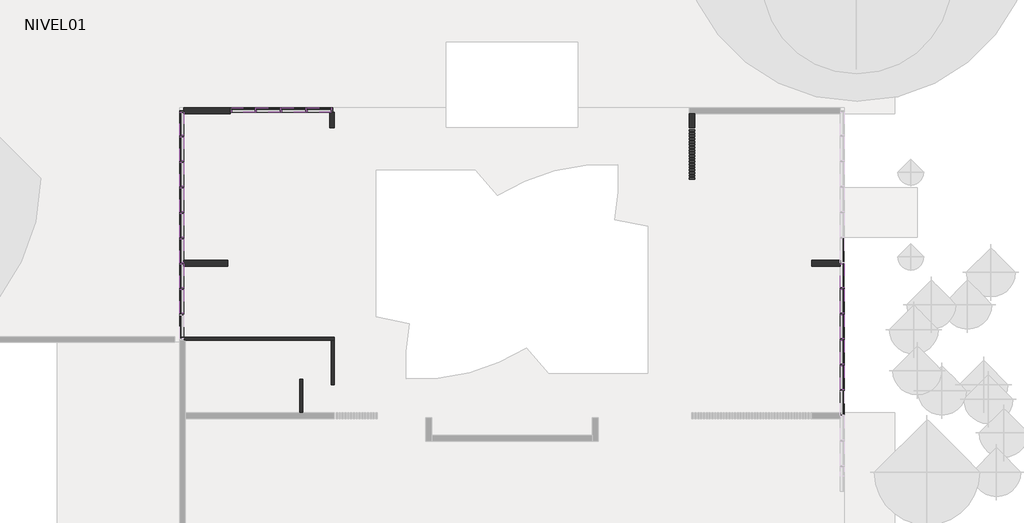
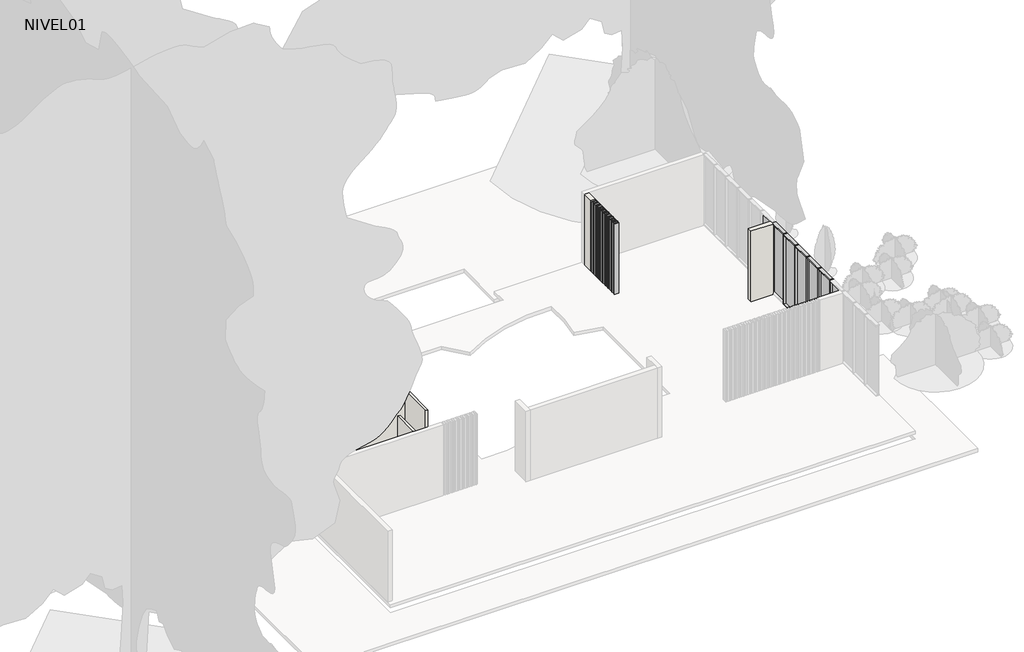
# One storey, part 3 of 4: 74 members, 19 plates, 8 walls.
"""IFC4 building model written with IfcOpenShell, lengths in millimetres."""

import ifcopenshell
import ifcopenshell.guid

model = None  # the IFC model being written
_history = None  # IfcOwnerHistory: only IFC2X3 demands one
_inside = {}  # id of a spatial element -> (the spatial element, [elements in it])
_under = {}  # id of a project, library or spatial element -> (it, [spatial elements below it])
_declared = {}  # id of a project -> (the project, [libraries it declares])
_typed = {}  # id of a type object -> (the type object, [elements of that type])
_made_of = {}  # id of a material, layer set ... -> (it, [elements and type objects made of it])


def new_model(schema):
    """Start an empty IFC model of exactly this schema.

    Asked for "IFC4X3", IfcOpenShell would pick the latest addendum, in which some entities
    have other attributes; the version numbers below select the first issue.
    IFC2X3 requires an IfcOwnerHistory on every rooted entity: one is made here for all.
    """
    global model, _history
    if schema == "IFC4X3":
        model = ifcopenshell.file(schema_version=(4, 3, 0, 0))
    else:
        model = ifcopenshell.file(schema=schema)
    _inside.clear()
    _under.clear()
    _declared.clear()
    _typed.clear()
    _made_of.clear()
    _history = None
    if model.schema == "IFC2X3":
        org = make("IfcOrganization", Name="unknown")
        user = make(
            "IfcPersonAndOrganization",
            ThePerson=make("IfcPerson", FamilyName="unknown"),
            TheOrganization=org,
        )
        app = make(
            "IfcApplication",
            ApplicationDeveloper=org,
            Version="unknown",
            ApplicationFullName="unknown",
            ApplicationIdentifier="unknown",
        )
        _history = make(
            "IfcOwnerHistory",
            OwningUser=user,
            OwningApplication=app,
            ChangeAction="ADDED",
            CreationDate=0,
        )
    return model


def make(cls, **values):
    """One entity of the class cls with the attributes given. An attribute that is None is left unset."""
    return model.create_entity(
        cls, **{name: value for name, value in values.items() if value is not None}
    )


def rooted(cls, **values):
    """An entity with a GlobalId (a new one), such as an element, a storey or a relation."""
    return make(cls, GlobalId=ifcopenshell.guid.new(), OwnerHistory=_history, **values)


def si_unit(unit_type, name, prefix=None):
    """IfcSIUnit, for example si_unit("LENGTHUNIT", "METRE", prefix="MILLI")."""
    return make("IfcSIUnit", UnitType=unit_type, Prefix=prefix, Name=name)


def assignment(units):
    """IfcUnitAssignment: the units of a project."""
    return None if units is None else make("IfcUnitAssignment", Units=units)


def point(xyz):
    """IfcCartesianPoint."""
    return None if xyz is None else make("IfcCartesianPoint", Coordinates=xyz)


def direction(xyz):
    """IfcDirection."""
    return None if xyz is None else make("IfcDirection", DirectionRatios=xyz)


def frame(location, z_axis=None, x_axis=None):
    """IfcAxis2Placement3D, a coordinate frame: its origin and axes. An axis left out is left unset."""
    return make(
        "IfcAxis2Placement3D",
        Location=point(location),
        Axis=direction(z_axis),
        RefDirection=direction(x_axis),
    )


def origin():
    """The frame at (0, 0, 0) with its axes left unset."""
    return frame((0.0, 0.0, 0.0))


def origin_with_axes():
    """The frame at (0, 0, 0) with the z axis (0, 0, 1) and the x axis (1, 0, 0) written out."""
    return frame((0.0, 0.0, 0.0), z_axis=(0.0, 0.0, 1.0), x_axis=(1.0, 0.0, 0.0))


def place(relative_to, where):
    """IfcLocalPlacement: puts the frame where relative to a parent placement (None: the world)."""
    return make(
        "IfcLocalPlacement", PlacementRelTo=relative_to, RelativePlacement=where
    )


def context(
    kind, dimensions, precision=None, world=None, true_north=None, identifier=None
):
    """IfcGeometricRepresentationContext, for example the 3D "Model" context."""
    return make(
        "IfcGeometricRepresentationContext",
        ContextIdentifier=identifier,
        ContextType=kind,
        CoordinateSpaceDimension=dimensions,
        Precision=precision,
        WorldCoordinateSystem=world,
        TrueNorth=true_north,
    )


def project(units=None, contexts=None):
    """IfcProject with its units and contexts."""
    return rooted(
        "IfcProject",
        Name="project",
        RepresentationContexts=contexts,
        UnitsInContext=assignment(units),
    )


def spatial(cls, under=None, at=None, **own):
    """A site, building, storey or space (cls), placed at a placement, below another one or the project."""
    s = rooted(cls, ObjectPlacement=at, **own)
    if under is not None:
        _under.setdefault(under.id(), (under, []))[1].append(s)
    return s


def polyline(points):
    """IfcPolyline through the points."""
    return make("IfcPolyline", Points=[point(p) for p in points])


def outline(outer, holes=None, kind="AREA"):
    """IfcArbitraryClosedProfileDef: a profile drawn as a closed curve; with holes, ...WithVoids."""
    if holes is None:
        return make("IfcArbitraryClosedProfileDef", ProfileType=kind, OuterCurve=outer)
    return make(
        "IfcArbitraryProfileDefWithVoids",
        ProfileType=kind,
        OuterCurve=outer,
        InnerCurves=holes,
    )


def extrude(swept, where, along, depth):
    """IfcExtrudedAreaSolid: the profile swept, set in the frame where, extruded along a direction by depth."""
    return make(
        "IfcExtrudedAreaSolid",
        SweptArea=swept,
        Position=where,
        ExtrudedDirection=direction(along),
        Depth=depth,
    )


def faces_of(points, faces, orient=None, outer=None):
    """IfcFace entities. A face is a list of loops; a loop is a list of indices into points, from 0.

    orient and outer hold one flag for each loop. By default every Orientation is true, the
    first loop of a face is its IfcFaceOuterBound and the others are IfcFaceBound.
    """
    made = []
    for i, loops in enumerate(faces):
        bounds = []
        for j, loop in enumerate(loops):
            is_outer = j == 0 if outer is None else outer[i][j]
            bounds.append(
                make(
                    "IfcFaceOuterBound" if is_outer else "IfcFaceBound",
                    Bound=make("IfcPolyLoop", Polygon=[points[k] for k in loop]),
                    Orientation=True if orient is None else orient[i][j],
                )
            )
        made.append(make("IfcFace", Bounds=bounds))
    return made


def faceted_brep(points, faces, orient=None, outer=None, voids=None):
    """IfcFacetedBrep: a solid bounded by flat faces; with voids (closed shells), ...WithVoids."""
    shared = [point(p) for p in points]
    hull = make("IfcClosedShell", CfsFaces=faces_of(shared, faces, orient, outer))
    if voids is None:
        return make("IfcFacetedBrep", Outer=hull)
    return make(
        "IfcFacetedBrepWithVoids",
        Outer=hull,
        Voids=[
            make(cls, CfsFaces=faces_of(shared, fs, o, b)) for cls, fs, o, b in voids
        ],
    )


def shape(context_of_items, identifier, shape_type, items):
    """IfcShapeRepresentation: the items that make up one representation, for example the "Body"."""
    return make(
        "IfcShapeRepresentation",
        ContextOfItems=context_of_items,
        RepresentationIdentifier=identifier,
        RepresentationType=shape_type,
        Items=items,
    )


def source(mapping_origin, context_of_items, identifier, shape_type, items):
    """IfcRepresentationMap: a shape defined once, which mapped items show again and again."""
    return make(
        "IfcRepresentationMap",
        MappingOrigin=mapping_origin,
        MappedRepresentation=shape(context_of_items, identifier, shape_type, items),
    )


def transform(
    local_origin,
    x_axis=None,
    y_axis=None,
    z_axis=None,
    scale=None,
    scale2=None,
    scale3=None,
    uniform=True,
):
    """IfcCartesianTransformationOperator3D, or its non-uniform kind. x_axis, y_axis, z_axis: its Axis1, 2, 3."""
    if uniform:
        return make(
            "IfcCartesianTransformationOperator3D",
            Axis1=direction(x_axis),
            Axis2=direction(y_axis),
            LocalOrigin=point(local_origin),
            Scale=scale,
            Axis3=direction(z_axis),
        )
    return make(
        "IfcCartesianTransformationOperator3DnonUniform",
        Axis1=direction(x_axis),
        Axis2=direction(y_axis),
        LocalOrigin=point(local_origin),
        Scale=scale,
        Axis3=direction(z_axis),
        Scale2=scale2,
        Scale3=scale3,
    )


def mapped(mapping_source, mapping_target):
    """IfcMappedItem: shows the shape of a source again, moved by a transform."""
    return make(
        "IfcMappedItem", MappingSource=mapping_source, MappingTarget=mapping_target
    )


def made_of(thing, what):
    """Note that an element or type object is made of a material, layer set ...; save() writes the relation."""
    if what is not None:
        _made_of.setdefault(what.id(), (what, []))[1].append(thing)
    return thing


def element(
    cls,
    number,
    at=None,
    inside=None,
    cuts=None,
    type_object=None,
    material=None,
    context=None,
    identifier="Body",
    shape_type=None,
    held_by="IfcProductDefinitionShape",
    body=None,
    shapes=None,
    **own,
):
    """One element of the class cls, such as IfcWall. Its Tag is "e" and its number.

    at: its placement. inside: the storey or other place that contains it. cuts: it is an
    opening in that element (IfcRelVoidsElement). A single representation is given by context,
    identifier, shape_type and body (its items); several are given by shapes. held_by: the class
    of the entity that holds the representations. save() writes the other relations.
    """
    e = rooted(cls, Tag="e%d" % number, ObjectPlacement=at, **own)
    if body is not None:
        shapes = [shape(context, identifier, shape_type, body)]
    if shapes is not None:
        e.Representation = make(held_by, Representations=shapes)
    if inside is not None:
        _inside.setdefault(inside.id(), (inside, []))[1].append(e)
    if cuts is not None:
        rooted(
            "IfcRelVoidsElement", RelatingBuildingElement=cuts, RelatedOpeningElement=e
        )
    if type_object is not None:
        _typed.setdefault(type_object.id(), (type_object, []))[1].append(e)
    return made_of(e, material)


def aggregate(whole, parts):
    """IfcRelAggregates: a whole, such as a stair, and the parts it consists of."""
    return rooted("IfcRelAggregates", RelatingObject=whole, RelatedObjects=parts)


def save(model, path):
    """Write the relations noted so far, then the file.

    IfcRelAggregates (storeys below a building ...), IfcRelContainedInSpatialStructure (elements
    in a storey), IfcRelDefinesByType, IfcRelAssociatesMaterial and IfcRelDeclares: one each for
    every whole, place, type object, material and project.
    """
    for whole, parts in _under.values():
        aggregate(whole, parts)
    for where, things in _inside.values():
        rooted(
            "IfcRelContainedInSpatialStructure",
            RelatedElements=things,
            RelatingStructure=where,
        )
    for kind, things in _typed.values():
        rooted("IfcRelDefinesByType", RelatedObjects=things, RelatingType=kind)
    for what, things in _made_of.values():
        rooted("IfcRelAssociatesMaterial", RelatedObjects=things, RelatingMaterial=what)
    for by, libraries in _declared.values():
        rooted("IfcRelDeclares", RelatingContext=by, RelatedDefinitions=libraries)
    model.write(path)


def rectangular_mullion_50_x_150mm_86a57cfb(model_context):
    return source(origin(), model_context, "Body", "SweptSolid", [
        extrude(outline(polyline([(25.0, 75.0), (25.0, -75.0), (-25.0, -75.0), (-25.0, 75.0), (25.0, 75.0)])), frame((0.0, 0.0, -3350.0), z_axis=(0.0, 0.0, 1.0), x_axis=(1.0, 0.0, 0.0)), (0.0, 0.0, 1.0), 3350.0),
    ])


def rectangular_mullion_50_x_150mm_24ac0887(model_context):
    return source(origin(), model_context, "Body", "SweptSolid", [
        extrude(outline(polyline([(0.0, 75.0), (0.0, -75.0), (-50.0, -75.0), (-50.0, 75.0), (0.0, 75.0)])), frame((0.0, 0.0, -3350.0), z_axis=(0.0, 0.0, 1.0), x_axis=(1.0, 0.0, 0.0)), (0.0, 0.0, 1.0), 3350.0),
    ])


def rectangular_mullion_50_x_150mm_8dc60d6a(model_context):
    return source(origin(), model_context, "Body", "SweptSolid", [
        extrude(outline(polyline([(0.0, 75.0), (0.0, -75.0), (-50.0, -75.0), (-50.0, 75.0), (0.0, 75.0)])), frame((0.0, 0.0, -825.0000003), z_axis=(0.0, 0.0, 1.0), x_axis=(1.0, 0.0, 0.0)), (0.0, 0.0, 1.0), 825.0000003),
    ])


def rectangular_mullion_50_x_150mm_324a6438(model_context):
    return source(origin(), model_context, "Body", "SweptSolid", [
        extrude(outline(polyline([(0.0, 75.0), (0.0, -75.0), (-50.0, -75.0), (-50.0, 75.0), (0.0, 75.0)])), frame((0.0, 0.0, -850.0), z_axis=(0.0, 0.0, 1.0), x_axis=(1.0, 0.0, 0.0)), (0.0, 0.0, 1.0), 850.0),
    ])


def rectangular_mullion_madera_50_x_200mm_c4610814(model_context):
    return source(origin(), model_context, "Body", "SweptSolid", [
        extrude(outline(polyline([(25.0, 100.0), (25.0, -100.0), (-25.0, -100.0), (-25.0, 100.0), (25.0, 100.0)])), frame((0.0, 0.0, -3350.0), z_axis=(0.0, 0.0, 1.0), x_axis=(1.0, 0.0, 0.0)), (0.0, 0.0, 1.0), 3350.0),
    ])


def system_panel_glazed_e7fe89f5(model_context):
    return source(origin(), model_context, "Body", "SweptSolid", [
        extrude(outline(polyline([(412.5000002, 24.5), (-412.5000002, 24.5), (-412.5000002, 49.5), (412.5000002, 49.5), (412.5000002, 24.5)])), origin_with_axes(), (0.0, 0.0, 1.0), 3250.0),
    ])


def system_panel_glazed_7f3dea71(model_context):
    return source(origin(), model_context, "Body", "SweptSolid", [
        extrude(outline(polyline([(425.0, 24.5), (-425.0, 24.5), (-425.0, 49.5), (425.0, 49.5), (425.0, 24.5)])), origin_with_axes(), (0.0, 0.0, 1.0), 3250.0),
    ])


def system_panel_glazed_17ea2be8(model_context):
    return source(origin(), model_context, "Body", "SweptSolid", [
        extrude(outline(polyline([(412.5000002, -49.5), (-412.5000002, -49.5), (-412.5000002, -24.5), (412.5000002, -24.5), (412.5000002, -49.5)])), origin_with_axes(), (0.0, 0.0, 1.0), 3250.0),
    ])


def system_panel_glazed_1ee91bb5(model_context):
    return source(origin(), model_context, "Body", "SweptSolid", [
        extrude(outline(polyline([(425.0, -49.5), (-425.0, -49.5), (-425.0, -24.5), (425.0, -24.5), (425.0, -49.5)])), origin_with_axes(), (0.0, 0.0, 1.0), 3250.0),
    ])


model = new_model("IFC4")

# Units and contexts
model_context = context("Model", 3, world=origin())
ifc_project = project(units=[si_unit("LENGTHUNIT", "METRE", prefix="MILLI")], contexts=[model_context])

# Site, building, storey
site = spatial("IfcSite", under=ifc_project)
building = spatial("IfcBuilding", under=site)
storey = spatial("IfcBuildingStorey", under=building, Name="NIVEL01", Elevation=-1000.0)

# Members
placement = place(None, origin())
rectangular_mullion_50_x_150mm_shape = rectangular_mullion_50_x_150mm_86a57cfb(model_context)
element("IfcMember", 1, ObjectType="Rectangular Mullion : 50 x 150mm", at=placement, inside=storey, context=model_context, shape_type="MappedRepresentation", body=[
    mapped(rectangular_mullion_50_x_150mm_shape, transform((4516.4065252, 4233.9139237, -1020.0), x_axis=(0.0, -1.0, 0.0), y_axis=(-1.0, 0.0, 0.0), z_axis=(0.0, 0.0, -1.0))),
])
element("IfcMember", 2, ObjectType="Rectangular Mullion : 50 x 150mm", at=placement, inside=storey, context=model_context, shape_type="MappedRepresentation", body=[
    mapped(rectangular_mullion_50_x_150mm_shape, transform((4516.4065252, 3333.9139237, -1020.0), x_axis=(0.0, -1.0, 0.0), y_axis=(-1.0, 0.0, 0.0), z_axis=(0.0, 0.0, -1.0))),
])
element("IfcMember", 3, ObjectType="Rectangular Mullion : 50 x 150mm", at=placement, inside=storey, context=model_context, shape_type="MappedRepresentation", body=[
    mapped(rectangular_mullion_50_x_150mm_shape, transform((4516.4065252, 2433.9139237, -1020.0), x_axis=(0.0, -1.0, 0.0), y_axis=(-1.0, 0.0, 0.0), z_axis=(0.0, 0.0, -1.0))),
])
element("IfcMember", 4, ObjectType="Rectangular Mullion : 50 x 150mm", at=placement, inside=storey, context=model_context, shape_type="MappedRepresentation", body=[
    mapped(rectangular_mullion_50_x_150mm_shape, transform((4516.4065252, 1533.9139237, -1020.0), x_axis=(0.0, -1.0, 0.0), y_axis=(-1.0, 0.0, 0.0), z_axis=(0.0, 0.0, -1.0))),
])
element("IfcMember", 5, ObjectType="Rectangular Mullion : 50 x 150mm", at=placement, inside=storey, context=model_context, shape_type="MappedRepresentation", body=[
    mapped(rectangular_mullion_50_x_150mm_shape, transform((4516.4065252, 633.9139237, -1020.0), x_axis=(0.0, -1.0, 0.0), y_axis=(-1.0, 0.0, 0.0), z_axis=(0.0, 0.0, -1.0))),
])
element("IfcMember", 6, ObjectType="Rectangular Mullion : 50 x 150mm", at=placement, inside=storey, context=model_context, shape_type="MappedRepresentation", body=[
    mapped(rectangular_mullion_50_x_150mm_shape, transform((-16258.5934742, 10558.9139241, -1020.0), x_axis=(1.0, 0.0, 0.0), y_axis=(0.0, -1.0, 0.0), z_axis=(0.0, 0.0, -1.0))),
])
element("IfcMember", 7, ObjectType="Rectangular Mullion : 50 x 150mm", at=placement, inside=storey, context=model_context, shape_type="MappedRepresentation", body=[
    mapped(rectangular_mullion_50_x_150mm_shape, transform((-15358.5934742, 10558.9139241, -1020.0), x_axis=(1.0, 0.0, 0.0), y_axis=(0.0, -1.0, 0.0), z_axis=(0.0, 0.0, -1.0))),
])
element("IfcMember", 8, ObjectType="Rectangular Mullion : 50 x 150mm", at=placement, inside=storey, context=model_context, shape_type="MappedRepresentation", body=[
    mapped(rectangular_mullion_50_x_150mm_shape, transform((-14458.5934742, 10558.9139241, -1020.0), x_axis=(1.0, 0.0, 0.0), y_axis=(0.0, -1.0, 0.0), z_axis=(0.0, 0.0, -1.0))),
])
element("IfcMember", 9, ObjectType="Rectangular Mullion : 50 x 150mm", at=placement, inside=storey, context=model_context, shape_type="MappedRepresentation", body=[
    mapped(rectangular_mullion_50_x_150mm_shape, transform((-13558.5934742, 10558.9139241, -1020.0), x_axis=(1.0, 0.0, 0.0), y_axis=(0.0, -1.0, 0.0), z_axis=(0.0, 0.0, -1.0))),
])
rectangular_mullion_50_x_150mm_2_shape = rectangular_mullion_50_x_150mm_24ac0887(model_context)
element("IfcMember", 10, ObjectType="Rectangular Mullion : 50 x 150mm", at=placement, inside=storey, context=model_context, shape_type="MappedRepresentation", body=[
    mapped(rectangular_mullion_50_x_150mm_2_shape, transform((-17158.5934745, 10558.9139241, 2330.0), x_axis=(-1.0, 0.0, 0.0), y_axis=(0.0, -1.0, 0.0), z_axis=(0.0, 0.0, 1.0))),
])
element("IfcMember", 11, ObjectType="Rectangular Mullion : 50 x 150mm", at=placement, inside=storey, context=model_context, shape_type="MappedRepresentation", body=[
    mapped(rectangular_mullion_50_x_150mm_2_shape, transform((-13533.5934745, 10558.9139241, -1020.0), x_axis=(1.0, 0.0, 0.0), y_axis=(0.0, -1.0, 0.0), z_axis=(0.0, 0.0, -1.0))),
])
rectangular_mullion_50_x_150mm_3_shape = rectangular_mullion_50_x_150mm_8dc60d6a(model_context)
element("IfcMember", 12, ObjectType="Rectangular Mullion : 50 x 150mm", at=placement, inside=storey, context=model_context, shape_type="MappedRepresentation", body=[
    mapped(rectangular_mullion_50_x_150mm_3_shape, transform((-18883.5934748, 9658.9139237, 2330.0), x_axis=(0.0, 0.0, 1.0), y_axis=(-1.0, 0.0, 0.0), z_axis=(0.0, -1.0, 0.0))),
])
element("IfcMember", 13, ObjectType="Rectangular Mullion : 50 x 150mm", at=placement, inside=storey, context=model_context, shape_type="MappedRepresentation", body=[
    mapped(rectangular_mullion_50_x_150mm_3_shape, transform((-18883.5934748, 10483.9139241, -1020.0), x_axis=(0.0, 0.0, -1.0), y_axis=(-1.0, 0.0, 0.0), z_axis=(0.0, 1.0, 0.0))),
])
element("IfcMember", 14, ObjectType="Rectangular Mullion : 50 x 150mm", at=placement, inside=storey, context=model_context, shape_type="MappedRepresentation", body=[
    mapped(rectangular_mullion_50_x_150mm_shape, transform((-18883.5934748, 9633.9139237, -1020.0), x_axis=(0.0, -1.0, 0.0), y_axis=(-1.0, 0.0, 0.0), z_axis=(0.0, 0.0, -1.0))),
])
element("IfcMember", 15, ObjectType="Rectangular Mullion : 50 x 150mm", at=placement, inside=storey, context=model_context, shape_type="MappedRepresentation", body=[
    mapped(rectangular_mullion_50_x_150mm_shape, transform((-18883.5934748, 8733.9139237, -1020.0), x_axis=(0.0, -1.0, 0.0), y_axis=(-1.0, 0.0, 0.0), z_axis=(0.0, 0.0, -1.0))),
])
element("IfcMember", 16, ObjectType="Rectangular Mullion : 50 x 150mm", at=placement, inside=storey, context=model_context, shape_type="MappedRepresentation", body=[
    mapped(rectangular_mullion_50_x_150mm_shape, transform((-18883.5934748, 7833.9139237, -1020.0), x_axis=(0.0, -1.0, 0.0), y_axis=(-1.0, 0.0, 0.0), z_axis=(0.0, 0.0, -1.0))),
])
element("IfcMember", 17, ObjectType="Rectangular Mullion : 50 x 150mm", at=placement, inside=storey, context=model_context, shape_type="MappedRepresentation", body=[
    mapped(rectangular_mullion_50_x_150mm_shape, transform((-18883.5934748, 6933.9139237, -1020.0), x_axis=(0.0, -1.0, 0.0), y_axis=(-1.0, 0.0, 0.0), z_axis=(0.0, 0.0, -1.0))),
])
element("IfcMember", 18, ObjectType="Rectangular Mullion : 50 x 150mm", at=placement, inside=storey, context=model_context, shape_type="MappedRepresentation", body=[
    mapped(rectangular_mullion_50_x_150mm_shape, transform((-18883.5934748, 6033.9139237, -1020.0), x_axis=(0.0, -1.0, 0.0), y_axis=(-1.0, 0.0, 0.0), z_axis=(0.0, 0.0, -1.0))),
])
element("IfcMember", 19, ObjectType="Rectangular Mullion : 50 x 150mm", at=placement, inside=storey, context=model_context, shape_type="MappedRepresentation", body=[
    mapped(rectangular_mullion_50_x_150mm_shape, transform((-18883.5934748, 5133.9139237, -1020.0), x_axis=(0.0, -1.0, 0.0), y_axis=(-1.0, 0.0, 0.0), z_axis=(0.0, 0.0, -1.0))),
])
element("IfcMember", 20, ObjectType="Rectangular Mullion : 50 x 150mm", at=placement, inside=storey, context=model_context, shape_type="MappedRepresentation", body=[
    mapped(rectangular_mullion_50_x_150mm_shape, transform((-18883.5934748, 4233.9139237, -1020.0), x_axis=(0.0, -1.0, 0.0), y_axis=(-1.0, 0.0, 0.0), z_axis=(0.0, 0.0, -1.0))),
])
element("IfcMember", 21, ObjectType="Rectangular Mullion : 50 x 150mm", at=placement, inside=storey, context=model_context, shape_type="MappedRepresentation", body=[
    mapped(rectangular_mullion_50_x_150mm_shape, transform((-18883.5934748, 3333.9139237, -1020.0), x_axis=(0.0, -1.0, 0.0), y_axis=(-1.0, 0.0, 0.0), z_axis=(0.0, 0.0, -1.0))),
])
element("IfcMember", 22, ObjectType="Rectangular Mullion : 50 x 150mm", at=placement, inside=storey, context=model_context, shape_type="MappedRepresentation", body=[
    mapped(rectangular_mullion_50_x_150mm_shape, transform((-18883.5934748, 2433.9139237, -1020.0), x_axis=(0.0, -1.0, 0.0), y_axis=(-1.0, 0.0, 0.0), z_axis=(0.0, 0.0, -1.0))),
])
element("IfcMember", 23, ObjectType="Rectangular Mullion : 50 x 150mm", at=placement, inside=storey, context=model_context, shape_type="MappedRepresentation", body=[
    mapped(rectangular_mullion_50_x_150mm_2_shape, transform((-18883.5934748, 10533.9139241, 2330.0), x_axis=(0.0, 1.0, 0.0), y_axis=(-1.0, 0.0, 0.0), z_axis=(0.0, 0.0, 1.0))),
])
element("IfcMember", 24, ObjectType="Rectangular Mullion : 50 x 150mm", at=placement, inside=storey, context=model_context, shape_type="MappedRepresentation", body=[
    mapped(rectangular_mullion_50_x_150mm_3_shape, transform((-16283.5934742, 10558.9139241, 2330.0), x_axis=(0.0, 0.0, 1.0), y_axis=(0.0, -1.0, 0.0), z_axis=(1.0, 0.0, 0.0))),
])
rectangular_mullion_50_x_150mm_4_shape = rectangular_mullion_50_x_150mm_324a6438(model_context)
element("IfcMember", 25, ObjectType="Rectangular Mullion : 50 x 150mm", at=placement, inside=storey, context=model_context, shape_type="MappedRepresentation", body=[
    mapped(rectangular_mullion_50_x_150mm_4_shape, transform((4516.4065252, 4258.9139237, 2330.0), x_axis=(0.0, 0.0, 1.0), y_axis=(-1.0, 0.0, 0.0), z_axis=(0.0, -1.0, 0.0))),
])
element("IfcMember", 26, ObjectType="Rectangular Mullion : 50 x 150mm", at=placement, inside=storey, context=model_context, shape_type="MappedRepresentation", body=[
    mapped(rectangular_mullion_50_x_150mm_4_shape, transform((4516.4065252, 3358.9139237, 2330.0), x_axis=(0.0, 0.0, 1.0), y_axis=(-1.0, 0.0, 0.0), z_axis=(0.0, -1.0, 0.0))),
])
element("IfcMember", 27, ObjectType="Rectangular Mullion : 50 x 150mm", at=placement, inside=storey, context=model_context, shape_type="MappedRepresentation", body=[
    mapped(rectangular_mullion_50_x_150mm_4_shape, transform((4516.4065252, 2458.9139237, 2330.0), x_axis=(0.0, 0.0, 1.0), y_axis=(-1.0, 0.0, 0.0), z_axis=(0.0, -1.0, 0.0))),
])
element("IfcMember", 28, ObjectType="Rectangular Mullion : 50 x 150mm", at=placement, inside=storey, context=model_context, shape_type="MappedRepresentation", body=[
    mapped(rectangular_mullion_50_x_150mm_4_shape, transform((4516.4065252, 1558.9139237, 2330.0), x_axis=(0.0, 0.0, 1.0), y_axis=(-1.0, 0.0, 0.0), z_axis=(0.0, -1.0, 0.0))),
])
element("IfcMember", 29, ObjectType="Rectangular Mullion : 50 x 150mm", at=placement, inside=storey, context=model_context, shape_type="MappedRepresentation", body=[
    mapped(rectangular_mullion_50_x_150mm_4_shape, transform((4516.4065252, 658.9139237, 2330.0), x_axis=(0.0, 0.0, 1.0), y_axis=(-1.0, 0.0, 0.0), z_axis=(0.0, -1.0, 0.0))),
])
element("IfcMember", 30, ObjectType="Rectangular Mullion : 50 x 150mm", at=placement, inside=storey, context=model_context, shape_type="MappedRepresentation", body=[
    mapped(rectangular_mullion_50_x_150mm_4_shape, transform((-15383.5934742, 10558.9139241, 2330.0), x_axis=(0.0, 0.0, 1.0), y_axis=(0.0, -1.0, 0.0), z_axis=(1.0, 0.0, 0.0))),
])
element("IfcMember", 31, ObjectType="Rectangular Mullion : 50 x 150mm", at=placement, inside=storey, context=model_context, shape_type="MappedRepresentation", body=[
    mapped(rectangular_mullion_50_x_150mm_4_shape, transform((-14483.5934742, 10558.9139241, 2330.0), x_axis=(0.0, 0.0, 1.0), y_axis=(0.0, -1.0, 0.0), z_axis=(1.0, 0.0, 0.0))),
])
element("IfcMember", 32, ObjectType="Rectangular Mullion : 50 x 150mm", at=placement, inside=storey, context=model_context, shape_type="MappedRepresentation", body=[
    mapped(rectangular_mullion_50_x_150mm_4_shape, transform((-13583.5934742, 10558.9139241, 2330.0), x_axis=(0.0, 0.0, 1.0), y_axis=(0.0, -1.0, 0.0), z_axis=(1.0, 0.0, 0.0))),
])
element("IfcMember", 33, ObjectType="Rectangular Mullion : 50 x 150mm", at=placement, inside=storey, context=model_context, shape_type="MappedRepresentation", body=[
    mapped(rectangular_mullion_50_x_150mm_3_shape, transform((-17108.5934745, 10558.9139241, -1020.0), x_axis=(0.0, 0.0, -1.0), y_axis=(0.0, -1.0, 0.0), z_axis=(-1.0, 0.0, 0.0))),
])
element("IfcMember", 34, ObjectType="Rectangular Mullion : 50 x 150mm", at=placement, inside=storey, context=model_context, shape_type="MappedRepresentation", body=[
    mapped(rectangular_mullion_50_x_150mm_4_shape, transform((4516.4065252, 4208.9139237, -1020.0), x_axis=(0.0, 0.0, -1.0), y_axis=(-1.0, 0.0, 0.0), z_axis=(0.0, 1.0, 0.0))),
])
element("IfcMember", 35, ObjectType="Rectangular Mullion : 50 x 150mm", at=placement, inside=storey, context=model_context, shape_type="MappedRepresentation", body=[
    mapped(rectangular_mullion_50_x_150mm_4_shape, transform((4516.4065252, 3308.9139237, -1020.0), x_axis=(0.0, 0.0, -1.0), y_axis=(-1.0, 0.0, 0.0), z_axis=(0.0, 1.0, 0.0))),
])
element("IfcMember", 36, ObjectType="Rectangular Mullion : 50 x 150mm", at=placement, inside=storey, context=model_context, shape_type="MappedRepresentation", body=[
    mapped(rectangular_mullion_50_x_150mm_4_shape, transform((4516.4065252, 2408.9139237, -1020.0), x_axis=(0.0, 0.0, -1.0), y_axis=(-1.0, 0.0, 0.0), z_axis=(0.0, 1.0, 0.0))),
])
element("IfcMember", 37, ObjectType="Rectangular Mullion : 50 x 150mm", at=placement, inside=storey, context=model_context, shape_type="MappedRepresentation", body=[
    mapped(rectangular_mullion_50_x_150mm_4_shape, transform((4516.4065252, 1508.9139237, -1020.0), x_axis=(0.0, 0.0, -1.0), y_axis=(-1.0, 0.0, 0.0), z_axis=(0.0, 1.0, 0.0))),
])
element("IfcMember", 38, ObjectType="Rectangular Mullion : 50 x 150mm", at=placement, inside=storey, context=model_context, shape_type="MappedRepresentation", body=[
    mapped(rectangular_mullion_50_x_150mm_4_shape, transform((4516.4065252, 608.9139237, -1020.0), x_axis=(0.0, 0.0, -1.0), y_axis=(-1.0, 0.0, 0.0), z_axis=(0.0, 1.0, 0.0))),
])
element("IfcMember", 39, ObjectType="Rectangular Mullion : 50 x 150mm", at=placement, inside=storey, context=model_context, shape_type="MappedRepresentation", body=[
    mapped(rectangular_mullion_50_x_150mm_4_shape, transform((-16233.5934742, 10558.9139241, -1020.0), x_axis=(0.0, 0.0, -1.0), y_axis=(0.0, -1.0, 0.0), z_axis=(-1.0, 0.0, 0.0))),
])
element("IfcMember", 40, ObjectType="Rectangular Mullion : 50 x 150mm", at=placement, inside=storey, context=model_context, shape_type="MappedRepresentation", body=[
    mapped(rectangular_mullion_50_x_150mm_4_shape, transform((-15333.5934742, 10558.9139241, -1020.0), x_axis=(0.0, 0.0, -1.0), y_axis=(0.0, -1.0, 0.0), z_axis=(-1.0, 0.0, 0.0))),
])
element("IfcMember", 41, ObjectType="Rectangular Mullion : 50 x 150mm", at=placement, inside=storey, context=model_context, shape_type="MappedRepresentation", body=[
    mapped(rectangular_mullion_50_x_150mm_4_shape, transform((-14433.5934742, 10558.9139241, -1020.0), x_axis=(0.0, 0.0, -1.0), y_axis=(0.0, -1.0, 0.0), z_axis=(-1.0, 0.0, 0.0))),
])
element("IfcMember", 42, ObjectType="Rectangular Mullion : 50 x 150mm", at=placement, inside=storey, context=model_context, shape_type="MappedRepresentation", body=[
    mapped(rectangular_mullion_50_x_150mm_4_shape, transform((-18883.5934748, 8758.9139237, 2330.0), x_axis=(0.0, 0.0, 1.0), y_axis=(-1.0, 0.0, 0.0), z_axis=(0.0, -1.0, 0.0))),
])
element("IfcMember", 43, ObjectType="Rectangular Mullion : 50 x 150mm", at=placement, inside=storey, context=model_context, shape_type="MappedRepresentation", body=[
    mapped(rectangular_mullion_50_x_150mm_4_shape, transform((-18883.5934748, 7858.9139237, 2330.0), x_axis=(0.0, 0.0, 1.0), y_axis=(-1.0, 0.0, 0.0), z_axis=(0.0, -1.0, 0.0))),
])
element("IfcMember", 44, ObjectType="Rectangular Mullion : 50 x 150mm", at=placement, inside=storey, context=model_context, shape_type="MappedRepresentation", body=[
    mapped(rectangular_mullion_50_x_150mm_4_shape, transform((-18883.5934748, 6958.9139237, 2330.0), x_axis=(0.0, 0.0, 1.0), y_axis=(-1.0, 0.0, 0.0), z_axis=(0.0, -1.0, 0.0))),
])
element("IfcMember", 45, ObjectType="Rectangular Mullion : 50 x 150mm", at=placement, inside=storey, context=model_context, shape_type="MappedRepresentation", body=[
    mapped(rectangular_mullion_50_x_150mm_4_shape, transform((-18883.5934748, 6058.9139237, 2330.0), x_axis=(0.0, 0.0, 1.0), y_axis=(-1.0, 0.0, 0.0), z_axis=(0.0, -1.0, 0.0))),
])
element("IfcMember", 46, ObjectType="Rectangular Mullion : 50 x 150mm", at=placement, inside=storey, context=model_context, shape_type="MappedRepresentation", body=[
    mapped(rectangular_mullion_50_x_150mm_4_shape, transform((-18883.5934748, 5158.9139237, 2330.0), x_axis=(0.0, 0.0, 1.0), y_axis=(-1.0, 0.0, 0.0), z_axis=(0.0, -1.0, 0.0))),
])
element("IfcMember", 47, ObjectType="Rectangular Mullion : 50 x 150mm", at=placement, inside=storey, context=model_context, shape_type="MappedRepresentation", body=[
    mapped(rectangular_mullion_50_x_150mm_4_shape, transform((-18883.5934748, 4258.9139237, 2330.0), x_axis=(0.0, 0.0, 1.0), y_axis=(-1.0, 0.0, 0.0), z_axis=(0.0, -1.0, 0.0))),
])
element("IfcMember", 48, ObjectType="Rectangular Mullion : 50 x 150mm", at=placement, inside=storey, context=model_context, shape_type="MappedRepresentation", body=[
    mapped(rectangular_mullion_50_x_150mm_4_shape, transform((-18883.5934748, 3358.9139237, 2330.0), x_axis=(0.0, 0.0, 1.0), y_axis=(-1.0, 0.0, 0.0), z_axis=(0.0, -1.0, 0.0))),
])
element("IfcMember", 49, ObjectType="Rectangular Mullion : 50 x 150mm", at=placement, inside=storey, context=model_context, shape_type="MappedRepresentation", body=[
    mapped(rectangular_mullion_50_x_150mm_4_shape, transform((-18883.5934748, 9608.9139237, -1020.0), x_axis=(0.0, 0.0, -1.0), y_axis=(-1.0, 0.0, 0.0), z_axis=(0.0, 1.0, 0.0))),
])
element("IfcMember", 50, ObjectType="Rectangular Mullion : 50 x 150mm", at=placement, inside=storey, context=model_context, shape_type="MappedRepresentation", body=[
    mapped(rectangular_mullion_50_x_150mm_4_shape, transform((-18883.5934748, 8708.9139237, -1020.0), x_axis=(0.0, 0.0, -1.0), y_axis=(-1.0, 0.0, 0.0), z_axis=(0.0, 1.0, 0.0))),
])
element("IfcMember", 51, ObjectType="Rectangular Mullion : 50 x 150mm", at=placement, inside=storey, context=model_context, shape_type="MappedRepresentation", body=[
    mapped(rectangular_mullion_50_x_150mm_4_shape, transform((-18883.5934748, 7808.9139237, -1020.0), x_axis=(0.0, 0.0, -1.0), y_axis=(-1.0, 0.0, 0.0), z_axis=(0.0, 1.0, 0.0))),
])
element("IfcMember", 52, ObjectType="Rectangular Mullion : 50 x 150mm", at=placement, inside=storey, context=model_context, shape_type="MappedRepresentation", body=[
    mapped(rectangular_mullion_50_x_150mm_4_shape, transform((-18883.5934748, 6908.9139237, -1020.0), x_axis=(0.0, 0.0, -1.0), y_axis=(-1.0, 0.0, 0.0), z_axis=(0.0, 1.0, 0.0))),
])
element("IfcMember", 53, ObjectType="Rectangular Mullion : 50 x 150mm", at=placement, inside=storey, context=model_context, shape_type="MappedRepresentation", body=[
    mapped(rectangular_mullion_50_x_150mm_4_shape, transform((-18883.5934748, 6008.9139237, -1020.0), x_axis=(0.0, 0.0, -1.0), y_axis=(-1.0, 0.0, 0.0), z_axis=(0.0, 1.0, 0.0))),
])
element("IfcMember", 54, ObjectType="Rectangular Mullion : 50 x 150mm", at=placement, inside=storey, context=model_context, shape_type="MappedRepresentation", body=[
    mapped(rectangular_mullion_50_x_150mm_4_shape, transform((-18883.5934748, 5108.9139237, -1020.0), x_axis=(0.0, 0.0, -1.0), y_axis=(-1.0, 0.0, 0.0), z_axis=(0.0, 1.0, 0.0))),
])
element("IfcMember", 55, ObjectType="Rectangular Mullion : 50 x 150mm", at=placement, inside=storey, context=model_context, shape_type="MappedRepresentation", body=[
    mapped(rectangular_mullion_50_x_150mm_4_shape, transform((-18883.5934748, 4208.9139237, -1020.0), x_axis=(0.0, 0.0, -1.0), y_axis=(-1.0, 0.0, 0.0), z_axis=(0.0, 1.0, 0.0))),
])
element("IfcMember", 56, ObjectType="Rectangular Mullion : 50 x 150mm", at=placement, inside=storey, context=model_context, shape_type="MappedRepresentation", body=[
    mapped(rectangular_mullion_50_x_150mm_4_shape, transform((-18883.5934748, 3308.9139237, -1020.0), x_axis=(0.0, 0.0, -1.0), y_axis=(-1.0, 0.0, 0.0), z_axis=(0.0, 1.0, 0.0))),
])
rectangular_mullion_madera_50_x_200mm_shape = rectangular_mullion_madera_50_x_200mm_c4610814(model_context)
element("IfcMember", 57, ObjectType="Rectangular Mullion : MADERA 50 x 200mm", at=placement, inside=storey, context=model_context, shape_type="MappedRepresentation", body=[
    mapped(rectangular_mullion_madera_50_x_200mm_shape, transform((-808.5934748, 9833.9139237, -1020.0), x_axis=(0.0, -1.0, 0.0), y_axis=(-1.0, 0.0, 0.0), z_axis=(0.0, 0.0, -1.0))),
])
element("IfcMember", 58, ObjectType="Rectangular Mullion : MADERA 50 x 200mm", at=placement, inside=storey, context=model_context, shape_type="MappedRepresentation", body=[
    mapped(rectangular_mullion_madera_50_x_200mm_shape, transform((-808.5934748, 9733.9139237, -1020.0), x_axis=(0.0, -1.0, 0.0), y_axis=(-1.0, 0.0, 0.0), z_axis=(0.0, 0.0, -1.0))),
])
element("IfcMember", 59, ObjectType="Rectangular Mullion : MADERA 50 x 200mm", at=placement, inside=storey, context=model_context, shape_type="MappedRepresentation", body=[
    mapped(rectangular_mullion_madera_50_x_200mm_shape, transform((-808.5934748, 9633.9139237, -1020.0), x_axis=(0.0, -1.0, 0.0), y_axis=(-1.0, 0.0, 0.0), z_axis=(0.0, 0.0, -1.0))),
])
element("IfcMember", 60, ObjectType="Rectangular Mullion : MADERA 50 x 200mm", at=placement, inside=storey, context=model_context, shape_type="MappedRepresentation", body=[
    mapped(rectangular_mullion_madera_50_x_200mm_shape, transform((-808.5934748, 9533.9139237, -1020.0), x_axis=(0.0, -1.0, 0.0), y_axis=(-1.0, 0.0, 0.0), z_axis=(0.0, 0.0, -1.0))),
])
element("IfcMember", 61, ObjectType="Rectangular Mullion : MADERA 50 x 200mm", at=placement, inside=storey, context=model_context, shape_type="MappedRepresentation", body=[
    mapped(rectangular_mullion_madera_50_x_200mm_shape, transform((-808.5934748, 9433.9139237, -1020.0), x_axis=(0.0, -1.0, 0.0), y_axis=(-1.0, 0.0, 0.0), z_axis=(0.0, 0.0, -1.0))),
])
element("IfcMember", 62, ObjectType="Rectangular Mullion : MADERA 50 x 200mm", at=placement, inside=storey, context=model_context, shape_type="MappedRepresentation", body=[
    mapped(rectangular_mullion_madera_50_x_200mm_shape, transform((-808.5934748, 9333.9139237, -1020.0), x_axis=(0.0, -1.0, 0.0), y_axis=(-1.0, 0.0, 0.0), z_axis=(0.0, 0.0, -1.0))),
])
element("IfcMember", 63, ObjectType="Rectangular Mullion : MADERA 50 x 200mm", at=placement, inside=storey, context=model_context, shape_type="MappedRepresentation", body=[
    mapped(rectangular_mullion_madera_50_x_200mm_shape, transform((-808.5934748, 9233.9139237, -1020.0), x_axis=(0.0, -1.0, 0.0), y_axis=(-1.0, 0.0, 0.0), z_axis=(0.0, 0.0, -1.0))),
])
element("IfcMember", 64, ObjectType="Rectangular Mullion : MADERA 50 x 200mm", at=placement, inside=storey, context=model_context, shape_type="MappedRepresentation", body=[
    mapped(rectangular_mullion_madera_50_x_200mm_shape, transform((-808.5934748, 9133.9139237, -1020.0), x_axis=(0.0, -1.0, 0.0), y_axis=(-1.0, 0.0, 0.0), z_axis=(0.0, 0.0, -1.0))),
])
element("IfcMember", 65, ObjectType="Rectangular Mullion : MADERA 50 x 200mm", at=placement, inside=storey, context=model_context, shape_type="MappedRepresentation", body=[
    mapped(rectangular_mullion_madera_50_x_200mm_shape, transform((-808.5934748, 9033.9139237, -1020.0), x_axis=(0.0, -1.0, 0.0), y_axis=(-1.0, 0.0, 0.0), z_axis=(0.0, 0.0, -1.0))),
])
element("IfcMember", 66, ObjectType="Rectangular Mullion : MADERA 50 x 200mm", at=placement, inside=storey, context=model_context, shape_type="MappedRepresentation", body=[
    mapped(rectangular_mullion_madera_50_x_200mm_shape, transform((-808.5934748, 8933.9139237, -1020.0), x_axis=(0.0, -1.0, 0.0), y_axis=(-1.0, 0.0, 0.0), z_axis=(0.0, 0.0, -1.0))),
])
element("IfcMember", 67, ObjectType="Rectangular Mullion : MADERA 50 x 200mm", at=placement, inside=storey, context=model_context, shape_type="MappedRepresentation", body=[
    mapped(rectangular_mullion_madera_50_x_200mm_shape, transform((-808.5934748, 8833.9139237, -1020.0), x_axis=(0.0, -1.0, 0.0), y_axis=(-1.0, 0.0, 0.0), z_axis=(0.0, 0.0, -1.0))),
])
element("IfcMember", 68, ObjectType="Rectangular Mullion : MADERA 50 x 200mm", at=placement, inside=storey, context=model_context, shape_type="MappedRepresentation", body=[
    mapped(rectangular_mullion_madera_50_x_200mm_shape, transform((-808.5934748, 8733.9139237, -1020.0), x_axis=(0.0, -1.0, 0.0), y_axis=(-1.0, 0.0, 0.0), z_axis=(0.0, 0.0, -1.0))),
])
element("IfcMember", 69, ObjectType="Rectangular Mullion : MADERA 50 x 200mm", at=placement, inside=storey, context=model_context, shape_type="MappedRepresentation", body=[
    mapped(rectangular_mullion_madera_50_x_200mm_shape, transform((-808.5934748, 8633.9139237, -1020.0), x_axis=(0.0, -1.0, 0.0), y_axis=(-1.0, 0.0, 0.0), z_axis=(0.0, 0.0, -1.0))),
])
element("IfcMember", 70, ObjectType="Rectangular Mullion : MADERA 50 x 200mm", at=placement, inside=storey, context=model_context, shape_type="MappedRepresentation", body=[
    mapped(rectangular_mullion_madera_50_x_200mm_shape, transform((-808.5934748, 8533.9139237, -1020.0), x_axis=(0.0, -1.0, 0.0), y_axis=(-1.0, 0.0, 0.0), z_axis=(0.0, 0.0, -1.0))),
])
element("IfcMember", 71, ObjectType="Rectangular Mullion : MADERA 50 x 200mm", at=placement, inside=storey, context=model_context, shape_type="MappedRepresentation", body=[
    mapped(rectangular_mullion_madera_50_x_200mm_shape, transform((-808.5934748, 8433.9139237, -1020.0), x_axis=(0.0, -1.0, 0.0), y_axis=(-1.0, 0.0, 0.0), z_axis=(0.0, 0.0, -1.0))),
])
element("IfcMember", 72, ObjectType="Rectangular Mullion : MADERA 50 x 200mm", at=placement, inside=storey, context=model_context, shape_type="MappedRepresentation", body=[
    mapped(rectangular_mullion_madera_50_x_200mm_shape, transform((-808.5934748, 8333.9139237, -1020.0), x_axis=(0.0, -1.0, 0.0), y_axis=(-1.0, 0.0, 0.0), z_axis=(0.0, 0.0, -1.0))),
])
element("IfcMember", 73, ObjectType="Rectangular Mullion : MADERA 50 x 200mm", at=placement, inside=storey, context=model_context, shape_type="MappedRepresentation", body=[
    mapped(rectangular_mullion_madera_50_x_200mm_shape, transform((-808.5934748, 8233.9139237, -1020.0), x_axis=(0.0, -1.0, 0.0), y_axis=(-1.0, 0.0, 0.0), z_axis=(0.0, 0.0, -1.0))),
])
element("IfcMember", 74, ObjectType="Rectangular Mullion : MADERA 50 x 200mm", at=placement, inside=storey, context=model_context, shape_type="MappedRepresentation", body=[
    mapped(rectangular_mullion_madera_50_x_200mm_shape, transform((-808.5934748, 8133.9139237, -1020.0), x_axis=(0.0, -1.0, 0.0), y_axis=(-1.0, 0.0, 0.0), z_axis=(0.0, 0.0, -1.0))),
])

# Plates
system_panel_glazed_shape = system_panel_glazed_e7fe89f5(model_context)
element("IfcPlate", 75, ObjectType="System Panel : Glazed", at=placement, inside=storey, context=model_context, shape_type="MappedRepresentation", body=[
    mapped(system_panel_glazed_shape, transform((-16696.0934744, 10558.9139241, -970.0), x_axis=(1.0, 0.0, 0.0), y_axis=(0.0, 1.0, 0.0), z_axis=(0.0, 0.0, 1.0))),
])
system_panel_glazed_2_shape = system_panel_glazed_7f3dea71(model_context)
element("IfcPlate", 76, ObjectType="System Panel : Glazed", at=placement, inside=storey, context=model_context, shape_type="MappedRepresentation", body=[
    mapped(system_panel_glazed_2_shape, transform((4516.4065252, 5583.9139237, -970.0), x_axis=(0.0, -1.0, 0.0), y_axis=(1.0, 0.0, 0.0), z_axis=(0.0, 0.0, 1.0))),
])
element("IfcPlate", 77, ObjectType="System Panel : Glazed", at=placement, inside=storey, context=model_context, shape_type="MappedRepresentation", body=[
    mapped(system_panel_glazed_2_shape, transform((4516.4065252, 4683.9139237, -970.0), x_axis=(0.0, -1.0, 0.0), y_axis=(1.0, 0.0, 0.0), z_axis=(0.0, 0.0, 1.0))),
])
element("IfcPlate", 78, ObjectType="System Panel : Glazed", at=placement, inside=storey, context=model_context, shape_type="MappedRepresentation", body=[
    mapped(system_panel_glazed_2_shape, transform((4516.4065252, 3783.9139237, -970.0), x_axis=(0.0, -1.0, 0.0), y_axis=(1.0, 0.0, 0.0), z_axis=(0.0, 0.0, 1.0))),
])
element("IfcPlate", 79, ObjectType="System Panel : Glazed", at=placement, inside=storey, context=model_context, shape_type="MappedRepresentation", body=[
    mapped(system_panel_glazed_2_shape, transform((4516.4065252, 2883.9139237, -970.0), x_axis=(0.0, -1.0, 0.0), y_axis=(1.0, 0.0, 0.0), z_axis=(0.0, 0.0, 1.0))),
])
element("IfcPlate", 80, ObjectType="System Panel : Glazed", at=placement, inside=storey, context=model_context, shape_type="MappedRepresentation", body=[
    mapped(system_panel_glazed_2_shape, transform((4516.4065252, 1983.9139237, -970.0), x_axis=(0.0, -1.0, 0.0), y_axis=(1.0, 0.0, 0.0), z_axis=(0.0, 0.0, 1.0))),
])
element("IfcPlate", 81, ObjectType="System Panel : Glazed", at=placement, inside=storey, context=model_context, shape_type="MappedRepresentation", body=[
    mapped(system_panel_glazed_2_shape, transform((4516.4065252, 1083.9139237, -970.0), x_axis=(0.0, -1.0, 0.0), y_axis=(1.0, 0.0, 0.0), z_axis=(0.0, 0.0, 1.0))),
])
element("IfcPlate", 82, ObjectType="System Panel : Glazed", at=placement, inside=storey, context=model_context, shape_type="MappedRepresentation", body=[
    mapped(system_panel_glazed_2_shape, transform((4516.4065252, 183.9139237, -970.0), x_axis=(0.0, -1.0, 0.0), y_axis=(1.0, 0.0, 0.0), z_axis=(0.0, 0.0, 1.0))),
])
element("IfcPlate", 83, ObjectType="System Panel : Glazed", at=placement, inside=storey, context=model_context, shape_type="MappedRepresentation", body=[
    mapped(system_panel_glazed_2_shape, transform((-15808.5934742, 10558.9139241, -970.0), x_axis=(1.0, 0.0, 0.0), y_axis=(0.0, 1.0, 0.0), z_axis=(0.0, 0.0, 1.0))),
])
element("IfcPlate", 84, ObjectType="System Panel : Glazed", at=placement, inside=storey, context=model_context, shape_type="MappedRepresentation", body=[
    mapped(system_panel_glazed_2_shape, transform((-14908.5934742, 10558.9139241, -970.0), x_axis=(1.0, 0.0, 0.0), y_axis=(0.0, 1.0, 0.0), z_axis=(0.0, 0.0, 1.0))),
])
element("IfcPlate", 85, ObjectType="System Panel : Glazed", at=placement, inside=storey, context=model_context, shape_type="MappedRepresentation", body=[
    mapped(system_panel_glazed_2_shape, transform((-14008.5934742, 10558.9139241, -970.0), x_axis=(1.0, 0.0, 0.0), y_axis=(0.0, 1.0, 0.0), z_axis=(0.0, 0.0, 1.0))),
])
system_panel_glazed_3_shape = system_panel_glazed_17ea2be8(model_context)
element("IfcPlate", 86, ObjectType="System Panel : Glazed", at=placement, inside=storey, context=model_context, shape_type="MappedRepresentation", body=[
    mapped(system_panel_glazed_3_shape, transform((-18883.5934748, 10071.4139239, -970.0), x_axis=(0.0, -1.0, 0.0), y_axis=(1.0, 0.0, 0.0), z_axis=(0.0, 0.0, 1.0))),
])
system_panel_glazed_4_shape = system_panel_glazed_1ee91bb5(model_context)
element("IfcPlate", 87, ObjectType="System Panel : Glazed", at=placement, inside=storey, context=model_context, shape_type="MappedRepresentation", body=[
    mapped(system_panel_glazed_4_shape, transform((-18883.5934748, 9183.9139237, -970.0), x_axis=(0.0, -1.0, 0.0), y_axis=(1.0, 0.0, 0.0), z_axis=(0.0, 0.0, 1.0))),
])
element("IfcPlate", 88, ObjectType="System Panel : Glazed", at=placement, inside=storey, context=model_context, shape_type="MappedRepresentation", body=[
    mapped(system_panel_glazed_4_shape, transform((-18883.5934748, 8283.9139237, -970.0), x_axis=(0.0, -1.0, 0.0), y_axis=(1.0, 0.0, 0.0), z_axis=(0.0, 0.0, 1.0))),
])
element("IfcPlate", 89, ObjectType="System Panel : Glazed", at=placement, inside=storey, context=model_context, shape_type="MappedRepresentation", body=[
    mapped(system_panel_glazed_4_shape, transform((-18883.5934748, 7383.9139237, -970.0), x_axis=(0.0, -1.0, 0.0), y_axis=(1.0, 0.0, 0.0), z_axis=(0.0, 0.0, 1.0))),
])
element("IfcPlate", 90, ObjectType="System Panel : Glazed", at=placement, inside=storey, context=model_context, shape_type="MappedRepresentation", body=[
    mapped(system_panel_glazed_4_shape, transform((-18883.5934748, 6483.9139237, -970.0), x_axis=(0.0, -1.0, 0.0), y_axis=(1.0, 0.0, 0.0), z_axis=(0.0, 0.0, 1.0))),
])
element("IfcPlate", 91, ObjectType="System Panel : Glazed", at=placement, inside=storey, context=model_context, shape_type="MappedRepresentation", body=[
    mapped(system_panel_glazed_4_shape, transform((-18883.5934748, 5583.9139237, -970.0), x_axis=(0.0, -1.0, 0.0), y_axis=(1.0, 0.0, 0.0), z_axis=(0.0, 0.0, 1.0))),
])
element("IfcPlate", 92, ObjectType="System Panel : Glazed", at=placement, inside=storey, context=model_context, shape_type="MappedRepresentation", body=[
    mapped(system_panel_glazed_4_shape, transform((-18883.5934748, 4683.9139237, -970.0), x_axis=(0.0, -1.0, 0.0), y_axis=(1.0, 0.0, 0.0), z_axis=(0.0, 0.0, 1.0))),
])
element("IfcPlate", 93, ObjectType="System Panel : Glazed", at=placement, inside=storey, context=model_context, shape_type="MappedRepresentation", body=[
    mapped(system_panel_glazed_4_shape, transform((-18883.5934748, 3783.9139237, -970.0), x_axis=(0.0, -1.0, 0.0), y_axis=(1.0, 0.0, 0.0), z_axis=(0.0, 0.0, 1.0))),
])

# Walls
element("IfcWall", 94, ObjectType="SCV.TI.A.150.120.212.47.1", at=placement, inside=storey, context=model_context, shape_type="SweptSolid", body=[
    extrude(outline(polyline([(-13483.5934748, 10483.9139241), (-13483.5934748, 9933.9139241), (-13633.5934748, 9933.9139241), (-13633.5934748, 10483.9139241), (-13483.5934748, 10483.9139241)])), frame((0.0, 0.0, -1020.0), z_axis=(0.0, 0.0, 1.0), x_axis=(1.0, 0.0, 0.0)), (0.0, 0.0, 1.0), 3350.0),
])
element("IfcWall", 95, ObjectType="SCV.TI.A.110.090.143.47.1", at=placement, inside=storey, context=model_context, shape_type="SweptSolid", body=[
    extrude(outline(polyline([(-14703.5934748, -166.0860759), (-14703.5934748, 1033.9139241), (-14593.5934748, 1033.9139241), (-14593.5934748, -166.0860759), (-14703.5934748, -166.0860759)])), frame((0.0, 0.0, -1020.0), z_axis=(0.0, 0.0, 1.0), x_axis=(1.0, 0.0, 0.0)), (0.0, 0.0, 1.0), 3350.0),
])
element("IfcWall", 96, ObjectType="SCV.TI.A.110.090.143.47.1", at=placement, inside=storey, context=model_context, shape_type="SweptSolid", body=[
    extrude(outline(polyline([(-13483.5934748, 2403.9139237), (-13483.5934748, 833.9139241), (-13593.5934748, 833.9139241), (-13593.5934748, 2403.9139237), (-13483.5934748, 2403.9139237)])), frame((0.0, 0.0, -1020.0), z_axis=(0.0, 0.0, 1.0), x_axis=(1.0, 0.0, 0.0)), (0.0, 0.0, 1.0), 3350.0),
])
element("IfcWall", 97, ObjectType="SCV.TI.A.110.090.143.47.1", at=placement, inside=storey, context=model_context, shape_type="Brep", body=[
    faceted_brep([(-18883.5934748, 2403.9139237, -1020.0), (-13593.5934748, 2403.9139237, -1020.0), (-13483.5934748, 2403.9139237, -1020.0), (-13483.5934748, 2403.9139237, 2330.0), (-13593.5934748, 2403.9139237, 2330.0), (-18883.5934748, 2403.9139237, 2330.0), (-18883.5934748, 2513.9139237, -1020.0), (-18883.5934748, 2513.9139237, 2330.0), (-13483.5934748, 2513.9139237, 2330.0), (-13483.5934748, 2513.9139237, -1020.0)], [[[0, 1, 2, 3, 4, 5]], [[6, 7, 8, 9]], [[2, 1, 0, 6, 9]], [[5, 4, 3, 8, 7]], [[0, 5, 7, 6]], [[3, 2, 9, 8]]]),
])
element("IfcWall", 98, ObjectType="HA-200mm", at=placement, inside=storey, context=model_context, shape_type="SweptSolid", body=[
    extrude(outline(polyline([(-17158.5934745, 10433.9139241), (-18808.5934748, 10433.9139241), (-18808.5934748, 10633.9139241), (-17158.5934745, 10633.9139241), (-17158.5934745, 10433.9139241)])), frame((0.0, 0.0, -1020.0), z_axis=(0.0, 0.0, 1.0), x_axis=(1.0, 0.0, 0.0)), (0.0, 0.0, 1.0), 3350.0),
])
element("IfcWall", 99, ObjectType="HA-200mm", at=placement, inside=storey, context=model_context, shape_type="SweptSolid", body=[
    extrude(outline(polyline([(-17258.5934748, 5033.9139241), (-18808.5934748, 5033.9139241), (-18808.5934748, 5233.9139241), (-17258.5934748, 5233.9139241), (-17258.5934748, 5033.9139241)])), frame((0.0, 0.0, -1020.0), z_axis=(0.0, 0.0, 1.0), x_axis=(1.0, 0.0, 0.0)), (0.0, 0.0, 1.0), 3350.0),
])
element("IfcWall", 100, ObjectType="HA-200mm", at=placement, inside=storey, context=model_context, shape_type="SweptSolid", body=[
    extrude(outline(polyline([(-708.5934748, 10433.9139241), (-708.5934748, 9933.9139241), (-908.5934748, 9933.9139241), (-908.5934748, 10433.9139241), (-708.5934748, 10433.9139241)])), frame((0.0, 0.0, -1020.0), z_axis=(0.0, 0.0, 1.0), x_axis=(1.0, 0.0, 0.0)), (0.0, 0.0, 1.0), 3350.0),
])
element("IfcWall", 101, ObjectType="HA-200mm", at=placement, inside=storey, context=model_context, shape_type="SweptSolid", body=[
    extrude(outline(polyline([(4441.4065252, 5033.9139241), (3441.4065252, 5033.9139241), (3441.4065252, 5233.9139241), (4441.4065252, 5233.9139241), (4441.4065252, 5033.9139241)])), frame((0.0, 0.0, -1020.0), z_axis=(0.0, 0.0, 1.0), x_axis=(1.0, 0.0, 0.0)), (0.0, 0.0, 1.0), 3350.0),
])

save(model, "model.ifc")
